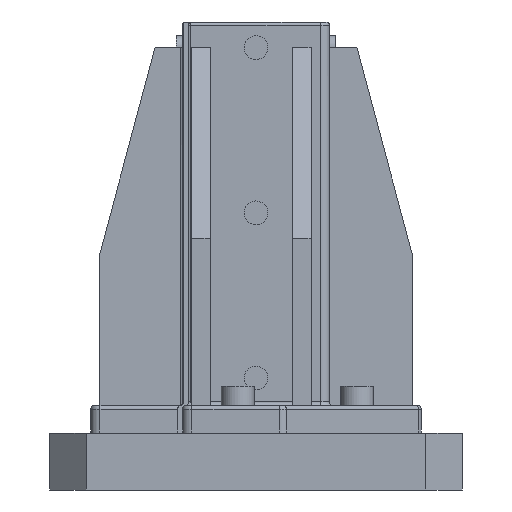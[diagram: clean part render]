
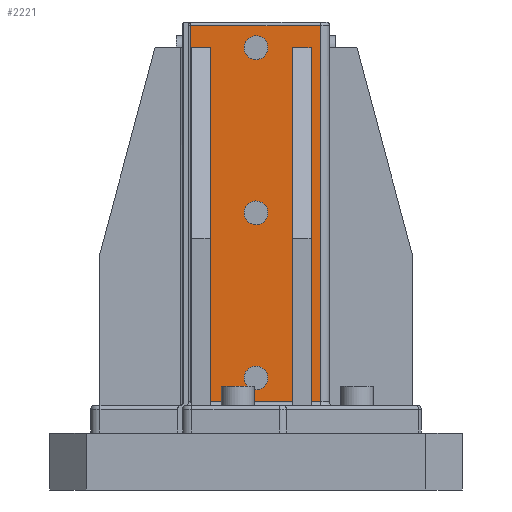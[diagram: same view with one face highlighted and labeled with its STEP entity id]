
A CAD part, front view. The second image highlights one B-rep face of the part: STEP entity #2221.
In plain terms, the highlighted planar face has unit normal (0, -1, 0).
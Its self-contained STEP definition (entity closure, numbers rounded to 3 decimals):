
#2221=ADVANCED_FACE('EGT_051_B8_0155_0571208_Flanschplatte_SW50-senkr_SET 1.CATProduct_EGT_051_B8_0155_0571208_Flanschplatte_SW50-senkr_3D_SET 1.1',(#4383),#4384,.F.);
#4383=FACE_OUTER_BOUND('',#6782,.T.);
#4384=PLANE('',#6783);
#6782=EDGE_LOOP('',(#12150,#12151,#12152,#12153,#12154,#12155,#12156,#12157,#12158,#12159));
#6783=AXIS2_PLACEMENT_3D('',#12160,#12161,#12162);
#12150=ORIENTED_EDGE('',*,*,#14449,.F.);
#12151=ORIENTED_EDGE('',*,*,#14468,.T.);
#12152=ORIENTED_EDGE('',*,*,#14502,.T.);
#12153=ORIENTED_EDGE('',*,*,#14423,.T.);
#12154=ORIENTED_EDGE('',*,*,#14359,.T.);
#12155=ORIENTED_EDGE('',*,*,#14420,.F.);
#12156=ORIENTED_EDGE('',*,*,#14500,.T.);
#12157=ORIENTED_EDGE('',*,*,#14411,.T.);
#12158=ORIENTED_EDGE('',*,*,#14353,.T.);
#12159=ORIENTED_EDGE('',*,*,#14321,.T.);
#12160=CARTESIAN_POINT('',(35.0,-40.0,39.));
#12161=DIRECTION('',(0.,1.0,0.));
#12162=DIRECTION('',(0.0,0.,1.0));
#14321=EDGE_CURVE('',#17398,#17350,#17399,.T.);
#14353=EDGE_CURVE('',#17446,#17398,#17447,.T.);
#14359=EDGE_CURVE('',#17457,#17455,#17458,.T.);
#14411=EDGE_CURVE('',#17538,#17446,#17539,.T.);
#14420=EDGE_CURVE('',#17552,#17455,#17554,.T.);
#14423=EDGE_CURVE('',#17558,#17457,#17559,.T.);
#14449=EDGE_CURVE('',#17576,#17350,#17597,.T.);
#14468=EDGE_CURVE('',#17576,#17618,#17620,.T.);
#14500=EDGE_CURVE('',#17552,#17538,#17655,.T.);
#14502=EDGE_CURVE('',#17618,#17558,#17657,.T.);
#17350=VERTEX_POINT('',#28976);
#17398=VERTEX_POINT('',#29184);
#17399=B_SPLINE_CURVE_WITH_KNOTS('',1,(#29185,#29186),.UNSPECIFIED.,.F.,.F.,(2,2),(0.0,1.0),.UNSPECIFIED.);
#17446=VERTEX_POINT('',#29396);
#17447=B_SPLINE_CURVE_WITH_KNOTS('',1,(#29397,#29398),.UNSPECIFIED.,.F.,.F.,(2,2),(0.,1.0),.UNSPECIFIED.);
#17455=VERTEX_POINT('',#29417);
#17457=VERTEX_POINT('',#29428);
#17458=B_SPLINE_CURVE_WITH_KNOTS('',1,(#29429,#29430),.UNSPECIFIED.,.F.,.F.,(2,2),(0.0,1.0),.UNSPECIFIED.);
#17538=VERTEX_POINT('',#29713);
#17539=B_SPLINE_CURVE_WITH_KNOTS('',1,(#29714,#29715),.UNSPECIFIED.,.F.,.F.,(2,2),(0.0,1.0),.UNSPECIFIED.);
#17552=VERTEX_POINT('',#29734);
#17554=B_SPLINE_CURVE_WITH_KNOTS('',1,(#29737,#29738),.UNSPECIFIED.,.F.,.F.,(2,2),(0.0,1.0),.UNSPECIFIED.);
#17558=VERTEX_POINT('',#29743);
#17559=B_SPLINE_CURVE_WITH_KNOTS('',1,(#29744,#29745),.UNSPECIFIED.,.F.,.F.,(2,2),(0.0,1.0),.UNSPECIFIED.);
#17576=VERTEX_POINT('',#29770);
#17597=B_SPLINE_CURVE_WITH_KNOTS('',1,(#29847,#29848),.UNSPECIFIED.,.F.,.F.,(2,2),(0.,4846.938),.UNSPECIFIED.);
#17618=VERTEX_POINT('',#29926);
#17620=B_SPLINE_CURVE_WITH_KNOTS('',1,(#29937,#29938),.UNSPECIFIED.,.F.,.F.,(2,2),(0.,1.0),.UNSPECIFIED.);
#17655=B_SPLINE_CURVE_WITH_KNOTS('',1,(#29999,#30000),.UNSPECIFIED.,.F.,.F.,(2,2),(0.0,1.0),.UNSPECIFIED.);
#17657=B_SPLINE_CURVE_WITH_KNOTS('',1,(#30002,#30003),.UNSPECIFIED.,.F.,.F.,(2,2),(-0.06,1.0),.UNSPECIFIED.);
#28976=CARTESIAN_POINT('',(35.,-40.,246.));
#29184=CARTESIAN_POINT('',(35.0,-40.0,41.));
#29185=CARTESIAN_POINT('',(35.0,-40.0,41.));
#29186=CARTESIAN_POINT('',(35.,-40.,246.));
#29396=CARTESIAN_POINT('',(30.0,-40.0,41.));
#29397=CARTESIAN_POINT('',(30.0,-40.0,41.));
#29398=CARTESIAN_POINT('',(35.,-40.0,41.));
#29417=CARTESIAN_POINT('',(20.0,-40.0,41.));
#29428=CARTESIAN_POINT('',(-25.0,-40.0,41.));
#29429=CARTESIAN_POINT('',(-25.,-40.0,41.));
#29430=CARTESIAN_POINT('',(20.0,-40.0,41.));
#29713=CARTESIAN_POINT('',(30.0,-40.0,234.));
#29714=CARTESIAN_POINT('',(30.0,-40.0,234.));
#29715=CARTESIAN_POINT('',(30.0,-40.0,41.));
#29734=CARTESIAN_POINT('',(20.0,-40.0,234.));
#29737=CARTESIAN_POINT('',(20.0,-40.0,234.));
#29738=CARTESIAN_POINT('',(20.0,-40.0,41.));
#29743=CARTESIAN_POINT('',(-25.0,-40.0,234.));
#29744=CARTESIAN_POINT('',(-25.0,-40.0,234.));
#29745=CARTESIAN_POINT('',(-25.0,-40.0,41.));
#29770=CARTESIAN_POINT('',(-35.599,-40.,246.));
#29847=CARTESIAN_POINT('',(-35.599,-40.,246.));
#29848=CARTESIAN_POINT('',(35.0,-40.,246.));
#29926=CARTESIAN_POINT('',(-35.599,-40.,234.));
#29937=CARTESIAN_POINT('',(-35.599,-40.,246.));
#29938=CARTESIAN_POINT('',(-35.599,-40.,234.));
#29999=CARTESIAN_POINT('',(20.0,-40.0,234.));
#30000=CARTESIAN_POINT('',(30.0,-40.0,234.));
#30002=CARTESIAN_POINT('',(-35.599,-40.0,234.));
#30003=CARTESIAN_POINT('',(-25.0,-40.0,234.));
